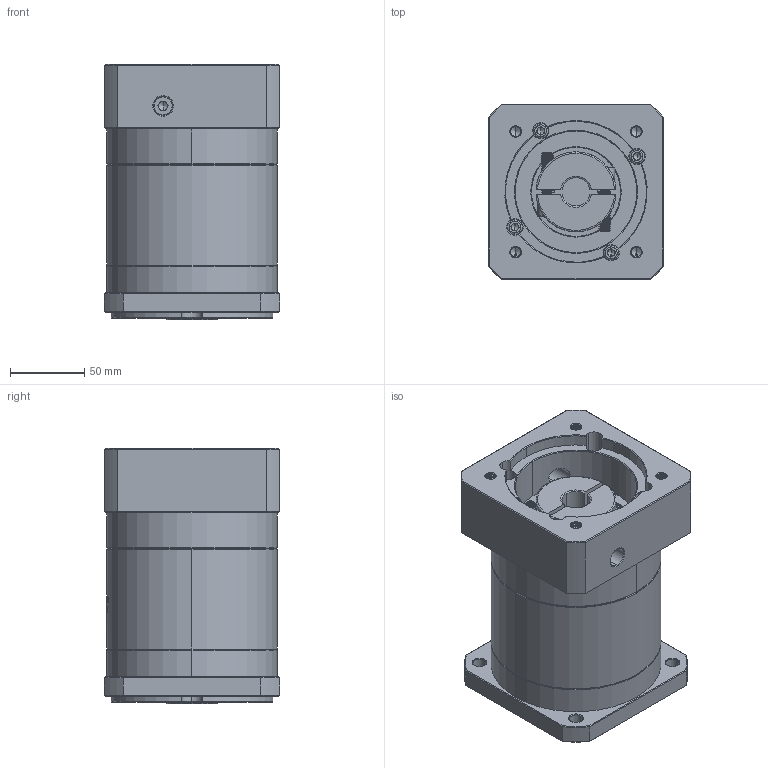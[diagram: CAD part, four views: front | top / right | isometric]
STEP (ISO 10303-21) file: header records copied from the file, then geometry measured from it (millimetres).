
FILE_DESCRIPTION (( 'STEP AP214' ), '1' );
FILE_NAME ('ZF120A-K25-L2-P2-19-95-115-M8.step', '2023-08-27T04:50:58', ( '' ), ( '' ), 'SwSTEP 2.0', 'SolidWorks 2016', '' );
FILE_SCHEMA (( 'AUTOMOTIVE_DESIGN' ));
Length unit declared in the file: millimetre
Products named in the file (1): ZF120A-K25-L2-P2-19-95-115-M8
Bounding box: 118 x 118 x 172 mm (x, y, z)
Volume: 1712396.9 mm3; surface area: 174324.8 mm2
Topology: 6 solids, 6 shells, 2186 faces, 5842 edges, 3757 vertices
Faces by surface type: plane 1027, bspline 430, cylinder 396, cone 333
Entity records: 118447 total; most frequent: CARTESIAN_POINT 45108, ORIENTED_EDGE 11628, DIRECTION 8448, EDGE_CURVE 5814, VERTEX_POINT 3757, VECTOR 3054, LINE 3054, AXIS2_PLACEMENT_3D 2697
